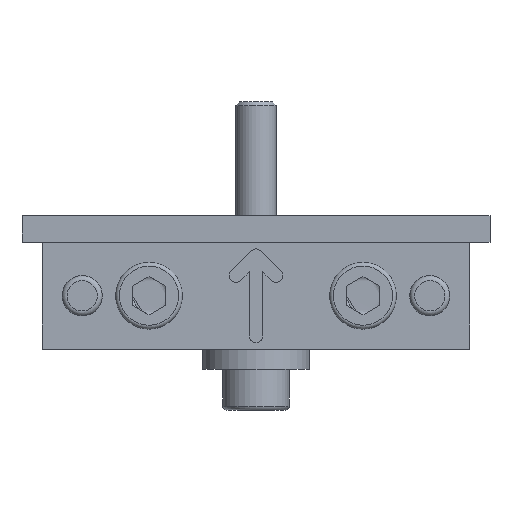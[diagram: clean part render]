
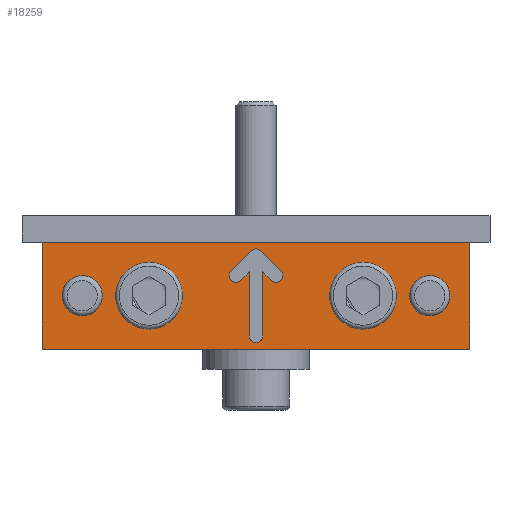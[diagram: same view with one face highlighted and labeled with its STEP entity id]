
A CAD part, top view. The second image highlights one B-rep face of the part: STEP entity #18259.
In plain terms, the highlighted planar face has unit normal (0, 0, 1).
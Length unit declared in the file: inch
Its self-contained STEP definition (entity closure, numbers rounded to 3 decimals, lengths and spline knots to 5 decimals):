
#116=CIRCLE('',#19134,0.03125);
#118=CIRCLE('',#19138,0.03125);
#120=CIRCLE('',#19142,0.03125);
#122=CIRCLE('',#19147,0.03125);
#124=CIRCLE('',#19153,0.10938);
#126=CIRCLE('',#19156,0.10938);
#128=CIRCLE('',#19159,0.09375);
#130=CIRCLE('',#19162,0.09375);
#2100=LINE('',#31796,#4129);
#2107=LINE('',#31836,#4136);
#2111=LINE('',#31848,#4140);
#2115=LINE('',#31860,#4144);
#2118=LINE('',#31866,#4147);
#2122=LINE('',#31878,#4151);
#2125=LINE('',#31882,#4154);
#2131=LINE('',#31914,#4160);
#2134=LINE('',#31921,#4163);
#2137=LINE('',#31926,#4166);
#4129=VECTOR('',#22441,0.3937);
#4136=VECTOR('',#22496,0.3937);
#4140=VECTOR('',#22508,0.3937);
#4144=VECTOR('',#22520,0.3937);
#4147=VECTOR('',#22525,0.3937);
#4151=VECTOR('',#22537,0.3937);
#4154=VECTOR('',#22542,0.3937);
#4160=VECTOR('',#22580,0.3937);
#4163=VECTOR('',#22587,0.3937);
#4166=VECTOR('',#22592,0.3937);
#4554=FACE_BOUND('',#6509,.T.);
#4555=FACE_BOUND('',#6510,.T.);
#4556=FACE_BOUND('',#6511,.T.);
#4557=FACE_BOUND('',#6512,.T.);
#4558=FACE_BOUND('',#6513,.T.);
#5475=FACE_OUTER_BOUND('',#6508,.T.);
#6508=EDGE_LOOP('',(#16374,#16375,#16376,#16377));
#6509=EDGE_LOOP('',(#16378,#16379,#16380,#16381,#16382,#16383,#16384,#16385,
#16386,#16387));
#6510=EDGE_LOOP('',(#16388));
#6511=EDGE_LOOP('',(#16389));
#6512=EDGE_LOOP('',(#16390));
#6513=EDGE_LOOP('',(#16391));
#8702=VERTEX_POINT('',#31794);
#8703=VERTEX_POINT('',#31795);
#8709=VERTEX_POINT('',#31827);
#8710=VERTEX_POINT('',#31829);
#8712=VERTEX_POINT('',#31835);
#8714=VERTEX_POINT('',#31841);
#8716=VERTEX_POINT('',#31847);
#8718=VERTEX_POINT('',#31853);
#8720=VERTEX_POINT('',#31859);
#8722=VERTEX_POINT('',#31865);
#8724=VERTEX_POINT('',#31871);
#8726=VERTEX_POINT('',#31877);
#8728=VERTEX_POINT('',#31887);
#8730=VERTEX_POINT('',#31893);
#8732=VERTEX_POINT('',#31899);
#8734=VERTEX_POINT('',#31905);
#8736=VERTEX_POINT('',#31913);
#8738=VERTEX_POINT('',#31920);
#11249=EDGE_CURVE('',#8702,#8703,#2100,.T.);
#11256=EDGE_CURVE('',#8710,#8709,#116,.T.);
#11259=EDGE_CURVE('',#8712,#8710,#2107,.T.);
#11262=EDGE_CURVE('',#8714,#8712,#118,.T.);
#11265=EDGE_CURVE('',#8716,#8714,#2111,.T.);
#11268=EDGE_CURVE('',#8718,#8716,#120,.T.);
#11271=EDGE_CURVE('',#8720,#8718,#2115,.T.);
#11274=EDGE_CURVE('',#8722,#8720,#2118,.T.);
#11277=EDGE_CURVE('',#8724,#8722,#122,.T.);
#11280=EDGE_CURVE('',#8726,#8724,#2122,.T.);
#11283=EDGE_CURVE('',#8709,#8726,#2125,.T.);
#11286=EDGE_CURVE('',#8728,#8728,#124,.T.);
#11289=EDGE_CURVE('',#8730,#8730,#126,.T.);
#11292=EDGE_CURVE('',#8732,#8732,#128,.T.);
#11295=EDGE_CURVE('',#8734,#8734,#130,.T.);
#11298=EDGE_CURVE('',#8736,#8702,#2131,.T.);
#11301=EDGE_CURVE('',#8703,#8738,#2134,.T.);
#11304=EDGE_CURVE('',#8738,#8736,#2137,.T.);
#16374=ORIENTED_EDGE('',*,*,#11298,.F.);
#16375=ORIENTED_EDGE('',*,*,#11304,.F.);
#16376=ORIENTED_EDGE('',*,*,#11301,.F.);
#16377=ORIENTED_EDGE('',*,*,#11249,.F.);
#16378=ORIENTED_EDGE('',*,*,#11256,.T.);
#16379=ORIENTED_EDGE('',*,*,#11283,.T.);
#16380=ORIENTED_EDGE('',*,*,#11280,.T.);
#16381=ORIENTED_EDGE('',*,*,#11277,.T.);
#16382=ORIENTED_EDGE('',*,*,#11274,.T.);
#16383=ORIENTED_EDGE('',*,*,#11271,.T.);
#16384=ORIENTED_EDGE('',*,*,#11268,.T.);
#16385=ORIENTED_EDGE('',*,*,#11265,.T.);
#16386=ORIENTED_EDGE('',*,*,#11262,.T.);
#16387=ORIENTED_EDGE('',*,*,#11259,.T.);
#16388=ORIENTED_EDGE('',*,*,#11286,.T.);
#16389=ORIENTED_EDGE('',*,*,#11289,.T.);
#16390=ORIENTED_EDGE('',*,*,#11292,.T.);
#16391=ORIENTED_EDGE('',*,*,#11295,.T.);
#17261=PLANE('',#19169);
#18259=ADVANCED_FACE('',(#5475,#4554,#4555,#4556,#4557,#4558),#17261,.T.);
#19134=AXIS2_PLACEMENT_3D('',#31830,#22490,#22491);
#19138=AXIS2_PLACEMENT_3D('',#31842,#22502,#22503);
#19142=AXIS2_PLACEMENT_3D('',#31854,#22514,#22515);
#19147=AXIS2_PLACEMENT_3D('',#31872,#22531,#22532);
#19153=AXIS2_PLACEMENT_3D('',#31889,#22550,#22551);
#19156=AXIS2_PLACEMENT_3D('',#31895,#22557,#22558);
#19159=AXIS2_PLACEMENT_3D('',#31901,#22564,#22565);
#19162=AXIS2_PLACEMENT_3D('',#31907,#22571,#22572);
#19169=AXIS2_PLACEMENT_3D('',#31928,#22594,#22595);
#22441=DIRECTION('',(-1.,0.,0.));
#22490=DIRECTION('center_axis',(0.,0.,-1.));
#22491=DIRECTION('ref_axis',(0.707,-0.707,0.));
#22496=DIRECTION('',(0.707,-0.707,0.));
#22502=DIRECTION('center_axis',(0.,0.,-1.));
#22503=DIRECTION('ref_axis',(0.707,0.707,0.));
#22508=DIRECTION('',(0.707,0.707,0.));
#22514=DIRECTION('center_axis',(0.,0.,-1.));
#22515=DIRECTION('ref_axis',(-0.707,-0.707,0.));
#22520=DIRECTION('',(-0.707,-0.707,0.));
#22525=DIRECTION('',(0.,1.,0.));
#22531=DIRECTION('center_axis',(0.,0.,-1.));
#22532=DIRECTION('ref_axis',(0.,-1.,0.));
#22537=DIRECTION('',(0.,-1.,0.));
#22542=DIRECTION('',(-0.707,0.707,0.));
#22550=DIRECTION('center_axis',(0.,0.,-1.));
#22551=DIRECTION('ref_axis',(-1.,0.,0.));
#22557=DIRECTION('center_axis',(0.,0.,-1.));
#22558=DIRECTION('ref_axis',(-1.,0.,0.));
#22564=DIRECTION('center_axis',(0.,0.,-1.));
#22565=DIRECTION('ref_axis',(-1.,0.,0.));
#22571=DIRECTION('center_axis',(0.,0.,-1.));
#22572=DIRECTION('ref_axis',(-1.,0.,0.));
#22580=DIRECTION('',(0.,-1.,0.));
#22587=DIRECTION('',(0.,1.,0.));
#22592=DIRECTION('',(1.,0.,0.));
#22594=DIRECTION('center_axis',(0.,0.,1.));
#22595=DIRECTION('ref_axis',(1.,0.,0.));
#31794=CARTESIAN_POINT('',(1.8125,-0.25,0.5));
#31795=CARTESIAN_POINT('',(-0.1875,-0.25,0.5));
#31796=CARTESIAN_POINT('',(1.8125,-0.25,0.5));
#31827=CARTESIAN_POINT('',(0.88411,0.0717,0.5));
#31829=CARTESIAN_POINT('',(0.9283,0.11589,0.5));
#31830=CARTESIAN_POINT('Origin',(0.90621,0.0938,0.5));
#31835=CARTESIAN_POINT('',(0.8346,0.2096,0.5));
#31836=CARTESIAN_POINT('',(0.92832,0.11587,0.5));
#31841=CARTESIAN_POINT('',(0.7904,0.2096,0.5));
#31842=CARTESIAN_POINT('Origin',(0.8125,0.1875,0.5));
#31847=CARTESIAN_POINT('',(0.6967,0.11589,0.5));
#31848=CARTESIAN_POINT('',(0.74353,0.16272,0.5));
#31853=CARTESIAN_POINT('',(0.74089,0.0717,0.5));
#31854=CARTESIAN_POINT('Origin',(0.7188,0.0938,0.5));
#31859=CARTESIAN_POINT('',(0.78125,0.11206,0.5));
#31860=CARTESIAN_POINT('',(0.74087,0.07168,0.5));
#31865=CARTESIAN_POINT('',(0.78125,-0.1875,0.5));
#31866=CARTESIAN_POINT('',(0.78125,0.05603,0.5));
#31871=CARTESIAN_POINT('',(0.84375,-0.1875,0.5));
#31872=CARTESIAN_POINT('Origin',(0.8125,-0.1875,0.5));
#31877=CARTESIAN_POINT('',(0.84375,0.11206,0.5));
#31878=CARTESIAN_POINT('',(0.84375,-0.09375,0.5));
#31882=CARTESIAN_POINT('',(0.86395,0.09185,0.5));
#31887=CARTESIAN_POINT('',(1.42188,0.,0.5));
#31889=CARTESIAN_POINT('Origin',(1.3125,0.,0.5));
#31893=CARTESIAN_POINT('',(0.42188,0.,0.5));
#31895=CARTESIAN_POINT('Origin',(0.3125,0.,0.5));
#31899=CARTESIAN_POINT('',(1.71875,0.,0.5));
#31901=CARTESIAN_POINT('Origin',(1.625,0.,0.5));
#31905=CARTESIAN_POINT('',(0.09375,0.,0.5));
#31907=CARTESIAN_POINT('Origin',(0.,0.,0.5));
#31913=CARTESIAN_POINT('',(1.8125,0.25,0.5));
#31914=CARTESIAN_POINT('',(1.8125,0.25,0.5));
#31920=CARTESIAN_POINT('',(-0.1875,0.25,0.5));
#31921=CARTESIAN_POINT('',(-0.1875,-0.25,0.5));
#31926=CARTESIAN_POINT('',(-0.1875,0.25,0.5));
#31928=CARTESIAN_POINT('Origin',(0.8125,0.,0.5));
